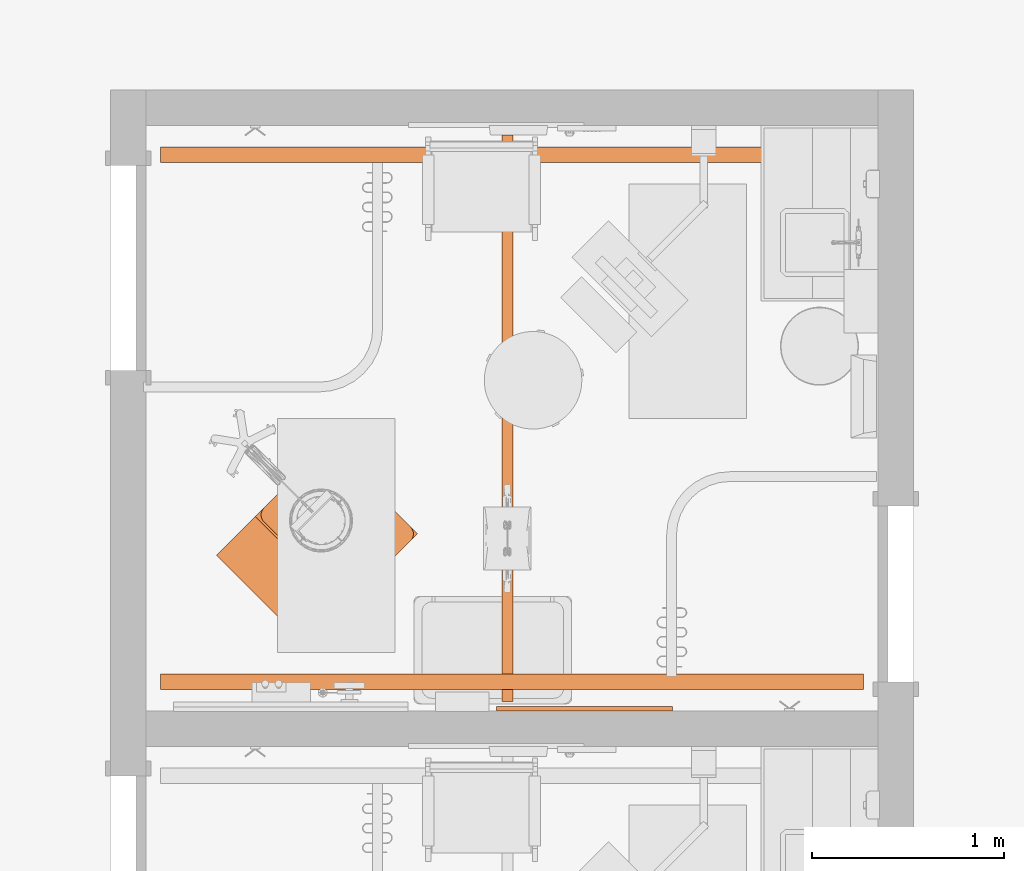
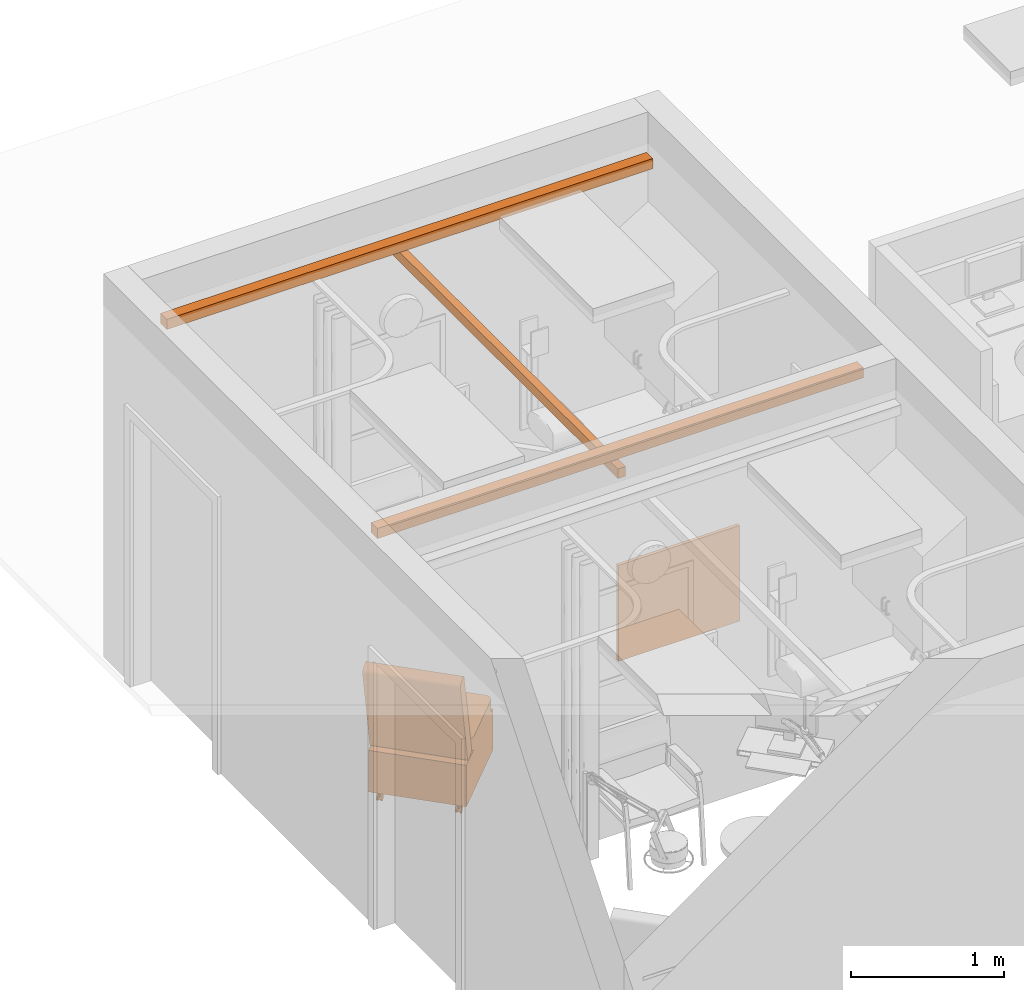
# One storey, part 52 of 142: 3 proxies.
"""IFC2X3 building model written with IfcOpenShell, lengths in feet."""

from ifc_helpers import new_model, entity, si_unit, converted_unit, derived_unit, direction, frame, frame_2d, origin, origin_2d_with_axis, place, context, subcontext, project, spatial, polyline, circle_curve, parameter, trimmed, segment, composite_curve, rectangle, circle, outline, extrude, source, transform, mapped, type_object, type_shapes, element, save


model = new_model("IFC2X3")

# Units and contexts
model_context = context("Model", 3, precision=0.0001, world=origin(), true_north=direction((6.12303176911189e-17, 1.0)))
body_context = subcontext(model_context, "Body", "Model", "MODEL_VIEW")
ifc_project = project(units=[converted_unit("LENGTHUNIT", "FOOT", entity("IfcRatioMeasure", 0.3048), si_unit("LENGTHUNIT", "METRE"), dimensions=[1, 0, 0, 0, 0, 0, 0]), converted_unit("AREAUNIT", "SQUARE FOOT", entity("IfcRatioMeasure", 0.09290304), si_unit("AREAUNIT", "SQUARE_METRE"), dimensions=[2, 0, 0, 0, 0, 0, 0]), converted_unit("VOLUMEUNIT", "CUBIC FOOT", entity("IfcRatioMeasure", 0.028316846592), si_unit("VOLUMEUNIT", "CUBIC_METRE"), dimensions=[3, 0, 0, 0, 0, 0, 0]), converted_unit("PLANEANGLEUNIT", "DEGREE", entity("IfcRatioMeasure", 0.0174532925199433), si_unit("PLANEANGLEUNIT", "RADIAN"), dimensions=[0, 0, 0, 0, 0, 0, 0]), si_unit("MASSUNIT", "GRAM", prefix="KILO"), derived_unit("MASSDENSITYUNIT", [(si_unit("MASSUNIT", "GRAM", prefix="KILO"), 1), (si_unit("LENGTHUNIT", "METRE"), -3)]), si_unit("TIMEUNIT", "SECOND"), si_unit("FREQUENCYUNIT", "HERTZ"), si_unit("THERMODYNAMICTEMPERATUREUNIT", "DEGREE_CELSIUS"), derived_unit("THERMALTRANSMITTANCEUNIT", [(si_unit("MASSUNIT", "GRAM", prefix="KILO"), 1), (si_unit("THERMODYNAMICTEMPERATUREUNIT", "KELVIN"), -1), (si_unit("TIMEUNIT", "SECOND"), -3)]), derived_unit("VOLUMETRICFLOWRATEUNIT", [(si_unit("LENGTHUNIT", "METRE"), 3), (si_unit("TIMEUNIT", "SECOND"), -1)]), si_unit("ELECTRICCURRENTUNIT", "AMPERE"), si_unit("ELECTRICVOLTAGEUNIT", "VOLT"), si_unit("POWERUNIT", "WATT"), si_unit("FORCEUNIT", "NEWTON"), si_unit("ILLUMINANCEUNIT", "LUX"), si_unit("LUMINOUSFLUXUNIT", "LUMEN"), si_unit("LUMINOUSINTENSITYUNIT", "CANDELA"), derived_unit("USERDEFINED", [(si_unit("MASSUNIT", "GRAM", prefix="KILO"), -1), (si_unit("LENGTHUNIT", "METRE"), -2), (si_unit("TIMEUNIT", "SECOND"), 3), (si_unit("LUMINOUSFLUXUNIT", "LUMEN"), 1)]), derived_unit("LINEARVELOCITYUNIT", [(si_unit("LENGTHUNIT", "METRE"), 1), (si_unit("TIMEUNIT", "SECOND"), -1)]), si_unit("PRESSUREUNIT", "PASCAL"), derived_unit("USERDEFINED", [(si_unit("LENGTHUNIT", "METRE"), -2), (si_unit("MASSUNIT", "GRAM", prefix="KILO"), 1), (si_unit("TIMEUNIT", "SECOND"), -2)])], contexts=[model_context])

# Site, building, storey, space
site_placement = place(None, origin())
site = spatial("IfcSite", under=ifc_project, at=site_placement, Name="Default", CompositionType="ELEMENT")
building_placement = place(site_placement, origin())
building = spatial("IfcBuilding", under=site, at=building_placement, Name="OUTPATIENT / PACT CLINIC (Ch. 265)", CompositionType="ELEMENT")
storey_placement = place(building_placement, origin())
storey = spatial("IfcBuildingStorey", under=building, at=storey_placement, Name="LEVEL 1", CompositionType="ELEMENT", Elevation=0.0)
space_placement = place(storey_placement, origin())
space = spatial("IfcSpace", under=storey, at=space_placement, Name="EXPA01", CompositionType="ELEMENT", InteriorOrExteriorSpace="INTERNAL")

# Proxies
building_element_proxy_type_1 = type_object("IfcBuildingElementProxyType", Name="F3025 - Board, Bulletin, Wood Framed", PredefinedType="NOTDEFINED")
shared_shape_1 = source(origin(), body_context, "Body", "SweptSolid", [
    extrude(rectangle(XDim=0.0416666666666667, YDim=2.74999999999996, at=origin_2d_with_axis()), frame((0.0, -0.020833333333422, 0.124999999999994), z_axis=(0.0, 0.0, 1.0), x_axis=(0.0, 1.0, 0.0)), (0.0, 0.0, 1.0), 2.25000000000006),
    extrude(outline(polyline([(-1.49999999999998, -1.25), (1.49999999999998, -1.25), (1.49999999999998, 1.25), (-1.49999999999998, 1.25), (-1.49999999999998, -1.25)]), holes=[polyline([(-1.37499999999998, -1.125), (-1.37499999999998, 1.12500000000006), (1.37499999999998, 1.12500000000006), (1.37499999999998, -1.125), (-1.37499999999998, -1.125)])]), frame((0.0, -0.0833333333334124, 1.25), z_axis=(0.0, 1.0, 0.0), x_axis=(-1.0, 0.0, 0.0)), (0.0, 0.0, 1.0), 0.0833333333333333),
])
type_shapes(building_element_proxy_type_1, [shared_shape_1])
proxy_1_placement = place(space_placement, frame((398.452893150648, -886.420519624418, 4.0), z_axis=(0.0, 0.0, 1.0), x_axis=(-1.0, 0.0, 0.0)))
element("IfcBuildingElementProxy", 1, at=proxy_1_placement, inside=space, type_object=building_element_proxy_type_1, Name="F3025 - Board, Bulletin, Wood Framed1:F3025 - Board, Bulletin, Wood Framed", ObjectType="F3025 - Board, Bulletin, Wood Framed", context=body_context, shape_type="MappedRepresentation", body=[
    mapped(shared_shape_1, transform((0.0, 0.0, 0.0), scale=1.0)),
])
building_element_proxy_type_2 = type_object("IfcBuildingElementProxyType", Name="Exam/Treatment Table with Cabinet", PredefinedType="NOTDEFINED")
shared_shape_2 = source(origin(), body_context, "Body", "SweptSolid", [
    extrude(circle(Radius=0.0833333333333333, at=frame_2d((0.0, -1.38777878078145e-16), x_axis=(1.0, 0.0))), frame((-0.843750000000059, 0.432291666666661, 0.0833333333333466), z_axis=(1.0, 0.0, 0.0), x_axis=(0.0, 1.0, 0.0)), (0.0, 0.0, 1.0), 0.0312500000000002),
    extrude(circle(Radius=0.0260416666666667, at=frame_2d((0.0, -5.55111512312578e-17), x_axis=(1.0, 0.0))), frame((-0.87500000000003, 0.463541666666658, 0.0801325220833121), z_axis=(0.0, 0.0, 1.0), x_axis=(-1.0, 0.0, 0.0)), (0.0, 0.0, 1.0), 0.211534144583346),
    extrude(circle(Radius=0.0625, at=frame_2d((0.0, -2.77555756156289e-16), x_axis=(1.0, 0.0))), frame((-0.90625000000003, 0.432291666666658, 0.0833333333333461), z_axis=(1.0, 0.0, 0.0), x_axis=(0.0, -1.0, 0.0)), (0.0, 0.0, 1.0), 0.0625),
    extrude(circle(Radius=0.0833333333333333, at=frame_2d((0.0, -1.38777878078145e-16), x_axis=(1.0, 0.0))), frame((-0.93750000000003, 0.432291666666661, 0.0833333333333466), z_axis=(1.0, 0.0, 0.0), x_axis=(0.0, 1.0, 0.0)), (0.0, 0.0, 1.0), 0.0312500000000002),
    extrude(circle(Radius=0.0833333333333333, at=frame_2d((0.0, -3.7470027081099e-16), x_axis=(1.0, 0.0))), frame((0.81250000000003, 0.432291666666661, 0.083333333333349), z_axis=(1.0, 0.0, 0.0), x_axis=(0.0, 1.0, 0.0)), (0.0, 0.0, 1.0), 0.0312500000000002),
    extrude(circle(Radius=0.0260416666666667, at=frame_2d((0.0, -5.55111512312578e-17), x_axis=(1.0, 0.0))), frame((0.875000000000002, 0.463541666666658, 0.0801325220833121)), (0.0, 0.0, 1.0), 0.211534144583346),
    extrude(circle(Radius=0.0625, at=frame_2d((0.0, -1.11022302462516e-16), x_axis=(1.0, 0.0))), frame((0.843750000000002, 0.432291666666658, 0.0833333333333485), z_axis=(1.0, 0.0, 0.0), x_axis=(0.0, -1.0, 0.0)), (0.0, 0.0, 1.0), 0.0625),
    extrude(circle(Radius=0.0833333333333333, at=frame_2d((0.0, -3.7470027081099e-16), x_axis=(1.0, 0.0))), frame((0.906250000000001, 0.432291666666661, 0.083333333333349), z_axis=(1.0, 0.0, 0.0), x_axis=(0.0, 1.0, 0.0)), (0.0, 0.0, 1.0), 0.0312500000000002),
    extrude(circle(Radius=0.0833333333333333, at=frame_2d((0.0, -1.38777878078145e-16), x_axis=(1.0, 0.0))), frame((-0.843750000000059, -1.41145833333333, 0.0833333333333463), z_axis=(1.0, 0.0, 0.0), x_axis=(0.0, -1.0, 0.0)), (0.0, 0.0, 1.0), 0.0312500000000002),
    extrude(circle(Radius=0.0260416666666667, at=origin_2d_with_axis()), frame((-0.87500000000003, -1.44270833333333, 0.0801325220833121), z_axis=(0.0, 0.0, 1.0), x_axis=(-1.0, 0.0, 0.0)), (0.0, 0.0, 1.0), 0.211534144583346),
    extrude(circle(Radius=0.0625, at=frame_2d((0.0, -2.77555756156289e-16), x_axis=(1.0, 0.0))), frame((-0.90625000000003, -1.41145833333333, 0.0833333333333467), z_axis=(1.0, 0.0, 0.0), x_axis=(0.0, 1.0, 0.0)), (0.0, 0.0, 1.0), 0.0625),
    extrude(circle(Radius=0.0833333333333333, at=frame_2d((0.0, -1.38777878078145e-16), x_axis=(1.0, 0.0))), frame((-0.93750000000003, -1.41145833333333, 0.0833333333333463), z_axis=(1.0, 0.0, 0.0), x_axis=(0.0, -1.0, 0.0)), (0.0, 0.0, 1.0), 0.0312500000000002),
    extrude(circle(Radius=0.0833333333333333, at=frame_2d((0.0, -3.7470027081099e-16), x_axis=(1.0, 0.0))), frame((0.81250000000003, -1.41145833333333, 0.0833333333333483), z_axis=(1.0, 0.0, 0.0), x_axis=(0.0, -1.0, 0.0)), (0.0, 0.0, 1.0), 0.0312500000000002),
    extrude(circle(Radius=0.0260416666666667, at=origin_2d_with_axis()), frame((0.875000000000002, -1.44270833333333, 0.0801325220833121)), (0.0, 0.0, 1.0), 0.211534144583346),
    extrude(circle(Radius=0.0625, at=frame_2d((0.0, -1.11022302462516e-16), x_axis=(1.0, 0.0))), frame((0.843750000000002, -1.41145833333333, 0.0833333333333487), z_axis=(1.0, 0.0, 0.0), x_axis=(0.0, 1.0, 0.0)), (0.0, 0.0, 1.0), 0.0625),
    extrude(circle(Radius=0.0833333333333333, at=frame_2d((0.0, -3.7470027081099e-16), x_axis=(1.0, 0.0))), frame((0.906250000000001, -1.41145833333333, 0.0833333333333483), z_axis=(1.0, 0.0, 0.0), x_axis=(0.0, -1.0, 0.0)), (0.0, 0.0, 1.0), 0.0312500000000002),
    extrude(rectangle(XDim=2.1666666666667, YDim=2.18316882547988, at=origin_2d_with_axis()), frame((0.0, -0.491748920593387, 0.291666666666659), z_axis=(0.0, 0.0, 1.0), x_axis=(-1.0, 0.0, 0.0)), (0.0, 0.0, 1.0), 1.08333333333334),
    extrude(outline(composite_curve([segment(trimmed(circle_curve(frame_2d((-0.221258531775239, -1.14772335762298), x_axis=(1.0, 0.0)), 0.0833333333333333), [parameter(255.0)], [parameter(345.0)], True, "PARAMETER"), True, "CONTINUOUS"), segment(polyline([(-0.140764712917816, -1.16929161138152), (0.462739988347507, 1.08301859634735)]), True, "CONTINUOUS"), segment(trimmed(circle_curve(frame_2d((0.382246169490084, 1.10458685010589), x_axis=(1.0, 0.0)), 0.0833333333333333), [parameter(345.000000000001)], [parameter(75.0000000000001)], True, "PARAMETER"), True, "CONTINUOUS"), segment(polyline([(0.403814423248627, 1.18508066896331), (0.242826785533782, 1.2282171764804)]), True, "CONTINUOUS"), segment(trimmed(circle_curve(frame_2d((0.221258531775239, 1.14772335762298), x_axis=(1.0, 0.0)), 0.0833333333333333), [parameter(74.9999999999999)], [parameter(165.0)], True, "PARAMETER"), True, "CONTINUOUS"), segment(polyline([(0.140764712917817, 1.16929161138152), (-0.462739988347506, -1.08301859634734)]), True, "CONTINUOUS"), segment(trimmed(circle_curve(frame_2d((-0.382246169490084, -1.10458685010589), x_axis=(1.0, 0.0)), 0.0833333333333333), [parameter(165.0)], [parameter(255.0)], True, "PARAMETER"), True, "CONTINUOUS"), segment(polyline([(-0.403814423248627, -1.18508066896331), (-0.242826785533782, -1.2282171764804)]), True, "CONTINUOUS")], self_intersect=False)), frame((-1.08333333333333, 0.632933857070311, 2.62668441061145), z_axis=(1.0, 0.0, 0.0), x_axis=(0.0, 1.0, 0.0)), (0.0, 0.0, 1.0), 2.16666666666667),
    extrude(outline(composite_curve([segment(polyline([(-0.916666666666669, -0.854166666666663), (0.91666666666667, -0.854166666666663)]), True, "CONTINUOUS"), segment(trimmed(circle_curve(frame_2d((0.916666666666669, -0.687499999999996), x_axis=(-1.0, 0.0)), 0.166666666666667), [parameter(90.0000000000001)], [parameter(180.0)], True, "PARAMETER"), True, "CONTINUOUS"), segment(polyline([(1.08333333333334, -0.687499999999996), (1.08333333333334, 0.687499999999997)]), True, "CONTINUOUS"), segment(trimmed(circle_curve(frame_2d((0.916666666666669, 0.687499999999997), x_axis=(-1.0, 0.0)), 0.166666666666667), [parameter(180.0)], [parameter(270.0)], True, "PARAMETER"), True, "CONTINUOUS"), segment(polyline([(0.916666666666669, 0.854166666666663), (-0.91666666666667, 0.854166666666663)]), True, "CONTINUOUS"), segment(trimmed(circle_curve(frame_2d((-0.916666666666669, 0.687499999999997), x_axis=(-1.0, 0.0)), 0.166666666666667), [parameter(270.0)], [parameter(0.0)], True, "PARAMETER"), True, "CONTINUOUS"), segment(polyline([(-1.08333333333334, 0.687499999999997), (-1.08333333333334, -0.687499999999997)]), True, "CONTINUOUS"), segment(trimmed(circle_curve(frame_2d((-0.916666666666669, -0.687499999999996), x_axis=(-1.0, 0.0)), 0.166666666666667), [parameter(0.0)], [parameter(90.0000000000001)], True, "PARAMETER"), True, "CONTINUOUS")], self_intersect=False)), frame((0.0, -0.729166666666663, 1.375), z_axis=(0.0, 0.0, 1.0), x_axis=(-1.0, 0.0, 0.0)), (0.0, 0.0, 1.0), 0.333333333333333),
])
type_shapes(building_element_proxy_type_2, [shared_shape_2])
proxy_2_placement = place(space_placement, frame((393.714225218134, -883.747729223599, 0.0260416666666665), z_axis=(0.0, 0.0, 1.0), x_axis=(-0.707106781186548, 0.707106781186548, 0.0)))
element("IfcBuildingElementProxy", 2, at=proxy_2_placement, inside=space, type_object=building_element_proxy_type_2, Name="M9025 - Exam Table1:Exam/Treatment Table with Cabinet", ObjectType="Exam/Treatment Table with Cabinet", context=body_context, shape_type="MappedRepresentation", body=[
    mapped(shared_shape_2, transform((0.0, 0.0, 0.0), scale=1.0)),
])
building_element_proxy_type_3 = type_object("IfcBuildingElementProxyType", Name="A1203 Lift System, Overhead, Bariatric", PredefinedType="NOTDEFINED")
shared_shape_3 = source(origin(), body_context, "Body", "SweptSolid", [
    extrude(rectangle(XDim=9.66757011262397, YDim=0.190288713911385, at=frame_2d((0.0, -6.93889390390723e-18), x_axis=(1.0, 0.0))), frame((0.244358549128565, 0.0796819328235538, 8.63910761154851), z_axis=(0.0, 0.0, 1.0), x_axis=(-1.0, 0.0, 0.0)), (0.0, 0.0, 1.0), 0.249343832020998),
    extrude(rectangle(XDim=11.9998599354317, YDim=0.267060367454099, at=frame_2d((0.0, 4.44089209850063e-16), x_axis=(1.0, 0.0))), frame((4.74481027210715, 0.0, 8.99015748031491), z_axis=(0.0, 0.0, 1.0), x_axis=(0.0, 1.0, 0.0)), (0.0, 0.0, 1.0), 0.265748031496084),
    extrude(rectangle(XDim=11.9998599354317, YDim=0.267060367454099, at=frame_2d((0.0, 4.44089209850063e-16), x_axis=(1.0, 0.0))), frame((-4.25609317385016, 0.0, 8.99015748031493), z_axis=(0.0, 0.0, 1.0), x_axis=(0.0, 1.0, 0.0)), (0.0, 0.0, 1.0), 0.265748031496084),
])
type_shapes(building_element_proxy_type_3, [shared_shape_3])
proxy_3_placement = place(space_placement, frame((397.213379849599, -881.665329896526, 0.0), z_axis=(0.0, 0.0, 1.0), x_axis=(0.0, 1.0, 0.0)))
element("IfcBuildingElementProxy", 3, at=proxy_3_placement, inside=space, type_object=building_element_proxy_type_3, Name="A1203 Lift System, Overhead, Bariatric (Traverse):A1203 Lift System, Overhead, Bariatric", ObjectType="A1203 Lift System, Overhead, Bariatric", context=body_context, shape_type="MappedRepresentation", body=[
    mapped(shared_shape_3, transform((0.0, 0.0, 0.0), scale=1.0)),
])

save(model, "model.ifc")
